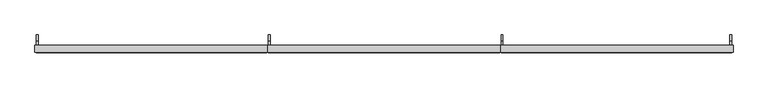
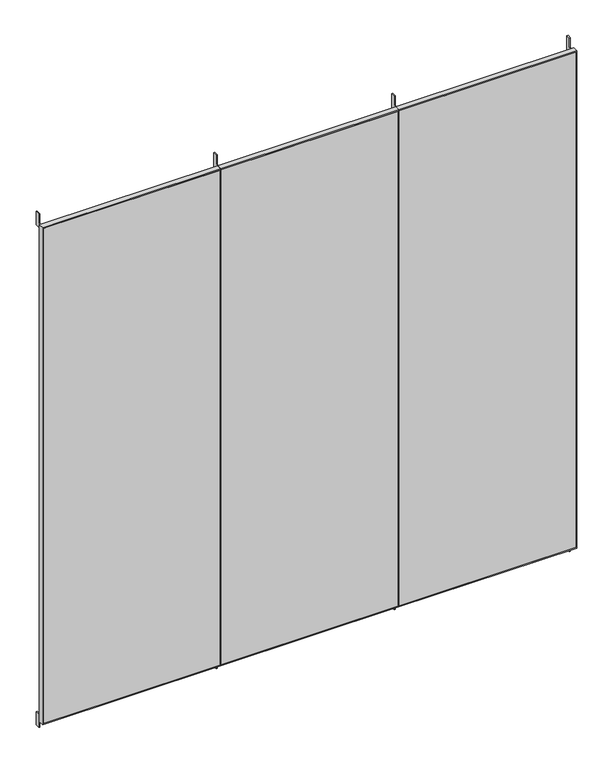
"""IFC4 building model written with IfcOpenShell, lengths in millimetres: furniture geometry, H03 Protección 3 módulos : H3.2 Protección 3 módulos 320x315."""

from ifc_helpers import new_model, si_unit, frame, origin, place, context, project, spatial, polyline, outline, extrude, source, transform, mapped, element, save


def furniture_e9eda647(model_context):
    return source(origin(), model_context, "Body", "SweptSolid", [
        extrude(outline(polyline([(3100.0, 44.7003264), (3100.0, -988.6330069), (50.0, -988.6330069), (50.0, 44.7003264), (3100.0, 44.7003264)]), holes=[polyline([(3093.0, 41.2003264), (57.0, 41.2003264), (57.0, -985.1330069), (3093.0, -985.1330069), (3093.0, 41.2003264)])]), frame((0.0, -600.0, 0.0), z_axis=(0.0, 1.0, 0.0), x_axis=(0.0, 0.0, 1.0)), (0.0, 0.0, 1.0), 32.0),
        extrude(outline(polyline([(1071.0336598, -600.0), (48.2003264, -600.0), (48.2003264, -597.0), (1071.0336598, -597.0), (1071.0336598, -600.0)])), frame((0.0, 0.0, 57.0), z_axis=(0.0, 0.0, 1.0), x_axis=(1.0, 0.0, 0.0)), (0.0, 0.0, 1.0), 3036.0),
        extrude(outline(polyline([(3100.0, 1078.0336598), (3100.0, 44.7003264), (50.0, 44.7003264), (50.0, 1078.0336598), (3100.0, 1078.0336598)]), holes=[polyline([(3093.0, 1071.0336598), (57.0, 1071.0336598), (57.0, 48.2003264), (3093.0, 48.2003264), (3093.0, 1071.0336598)])]), frame((0.0, -600.0, 0.0), z_axis=(0.0, 1.0, 0.0), x_axis=(0.0, 0.0, 1.0)), (0.0, 0.0, 1.0), 32.0),
        extrude(outline(polyline([(41.2003264, -600.0), (-985.1330069, -600.0), (-985.1330069, -597.0), (41.2003264, -597.0), (41.2003264, -600.0)])), frame((0.0, 0.0, 57.0), z_axis=(0.0, 0.0, 1.0), x_axis=(1.0, 0.0, 0.0)), (0.0, 0.0, 1.0), 3036.0),
        extrude(outline(polyline([(-992.1330069, -600.0), (-2014.9663402, -600.0), (-2014.9663402, -597.0), (-992.1330069, -597.0), (-992.1330069, -600.0)])), frame((0.0, 0.0, 57.0), z_axis=(0.0, 0.0, 1.0), x_axis=(1.0, 0.0, 0.0)), (0.0, 0.0, 1.0), 3036.0),
        extrude(outline(polyline([(3100.0, -988.6330069), (3100.0, -2021.9663402), (50.0, -2021.9663402), (50.0, -988.6330069), (3100.0, -988.6330069)]), holes=[polyline([(3093.0, -992.1330069), (57.0, -992.1330069), (57.0, -2014.9663402), (3093.0, -2014.9663402), (3093.0, -992.1330069)])]), frame((0.0, -600.0, 0.0), z_axis=(0.0, 1.0, 0.0), x_axis=(0.0, 0.0, 1.0)), (0.0, 0.0, 1.0), 32.0),
        extrude(outline(polyline([(-522.0, 3068.0), (-597.0, 3068.0), (-597.0, 3093.0), (-547.0, 3093.0), (-547.0, 3150.0), (-522.0, 3150.0), (-522.0, 3068.0)])), frame((-2014.9663402, 0.0, 0.0), z_axis=(1.0, 0.0, 0.0), x_axis=(0.0, 1.0, 0.0)), (0.0, 0.0, 1.0), 7.0),
        extrude(outline(polyline([(-522.0, 3068.0), (-597.0, 3068.0), (-597.0, 3093.0), (-547.0, 3093.0), (-547.0, 3150.0), (-522.0, 3150.0), (-522.0, 3068.0)])), frame((-985.1330069, 0.0, 0.0), z_axis=(1.0, 0.0, 0.0), x_axis=(0.0, 1.0, 0.0)), (0.0, 0.0, 1.0), 7.0),
        extrude(outline(polyline([(-522.0, 3068.0), (-597.0, 3068.0), (-597.0, 3093.0), (-547.0, 3093.0), (-547.0, 3150.0), (-522.0, 3150.0), (-522.0, 3068.0)])), frame((1064.0336598, 0.0, 0.0), z_axis=(1.0, 0.0, 0.0), x_axis=(0.0, 1.0, 0.0)), (0.0, 0.0, 1.0), 7.0),
        extrude(outline(polyline([(-522.0, 82.0), (-522.0, 0.0), (-547.0, 0.0), (-547.0, 57.0), (-597.0, 57.0), (-597.0, 82.0), (-522.0, 82.0)])), frame((1064.0336598, 0.0, 0.0), z_axis=(1.0, 0.0, 0.0), x_axis=(0.0, 1.0, 0.0)), (0.0, 0.0, 1.0), 7.0),
        extrude(outline(polyline([(-522.0, 82.0), (-522.0, 0.0), (-547.0, 0.0), (-547.0, 57.0), (-597.0, 57.0), (-597.0, 82.0), (-522.0, 82.0)])), frame((-2014.9663402, 0.0, 0.0), z_axis=(1.0, 0.0, 0.0), x_axis=(0.0, 1.0, 0.0)), (0.0, 0.0, 1.0), 7.0),
        extrude(outline(polyline([(-522.0, 82.0), (-522.0, 0.0), (-547.0, 0.0), (-547.0, 57.0), (-597.0, 57.0), (-597.0, 82.0), (-522.0, 82.0)])), frame((-985.1330069, 0.0, 0.0), z_axis=(1.0, 0.0, 0.0), x_axis=(0.0, 1.0, 0.0)), (0.0, 0.0, 1.0), 7.0),
        extrude(outline(polyline([(-522.0, 3068.0), (-597.0, 3068.0), (-597.0, 3093.0), (-547.0, 3093.0), (-547.0, 3150.0), (-522.0, 3150.0), (-522.0, 3068.0)])), frame((48.2003264, 0.0, 0.0), z_axis=(1.0, 0.0, 0.0), x_axis=(0.0, 1.0, 0.0)), (0.0, 0.0, 1.0), 7.0),
        extrude(outline(polyline([(-522.0, 82.0), (-522.0, 0.0), (-547.0, 0.0), (-547.0, 57.0), (-597.0, 57.0), (-597.0, 82.0), (-522.0, 82.0)])), frame((48.2003264, 0.0, 0.0), z_axis=(1.0, 0.0, 0.0), x_axis=(0.0, 1.0, 0.0)), (0.0, 0.0, 1.0), 7.0),
    ])


if __name__ == "__main__":
    model = new_model("IFC4")
    model_context = context("Model", 3, world=origin())
    ifc_project = project(units=[si_unit("LENGTHUNIT", "METRE", prefix="MILLI")], contexts=[model_context])
    site = spatial("IfcSite", under=ifc_project)
    building = spatial("IfcBuilding", under=site)
    placement = place(None, origin())
    furniture_shape = furniture_e9eda647(model_context)
    element("IfcFurniture", 1, ObjectType="H03 Protección 3 módulos : H3.2 Protección 3 módulos 320x315", at=placement, inside=building, context=model_context, shape_type="MappedRepresentation", body=[
        mapped(furniture_shape, transform((0.0, 0.0, 0.0), x_axis=(1.0, 0.0, 0.0), y_axis=(0.0, 1.0, 0.0), z_axis=(0.0, 0.0, 1.0))),
    ])
    save(model, "model.ifc")
